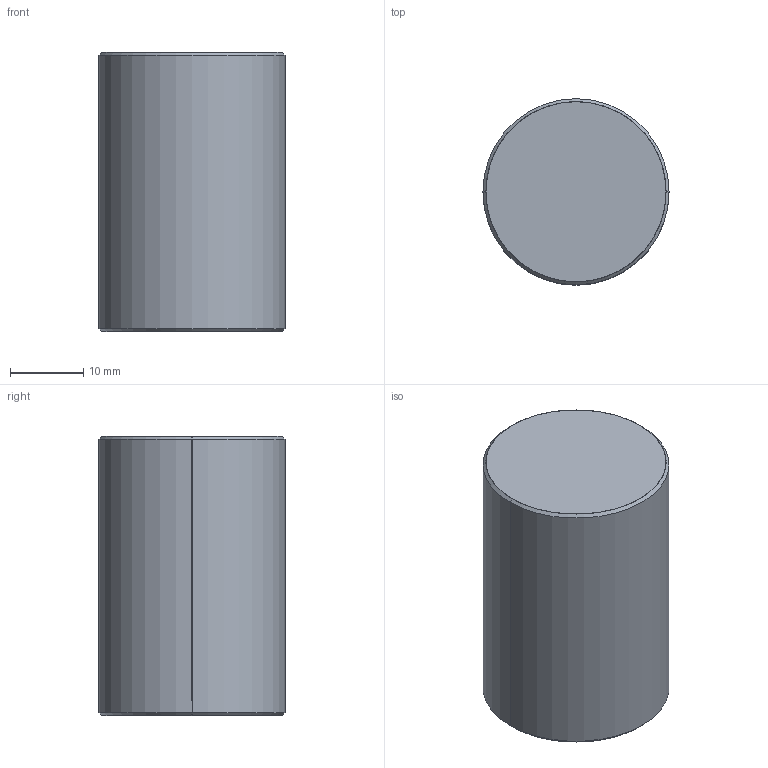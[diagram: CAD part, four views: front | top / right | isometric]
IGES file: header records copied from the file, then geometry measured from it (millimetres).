
Start section: SolidWorks IGES file using analytic representation for surfaces
Global section: file name: D:\Solid_parts\MECHeDESIGN\Bal-Tec\Catalog 105-A\Distribution\IGES\100-C.IGS; native system: SolidWorks 2005 by SolidWorks Corporation; preprocessor: SolidWorks 2005 by SolidWorks Corporation; author: rvillegas; date: 061204.225744; units: inch
Bounding box: 25.4 x 25.4 x 38.1 mm (x, y, z)
Surface area: 4015.2 mm2 (no closed solid volume)
Topology: 0 solids, 0 shells, 8 faces, 88 edges, 88 vertices
Faces by surface type: revolution 6, bspline 2
